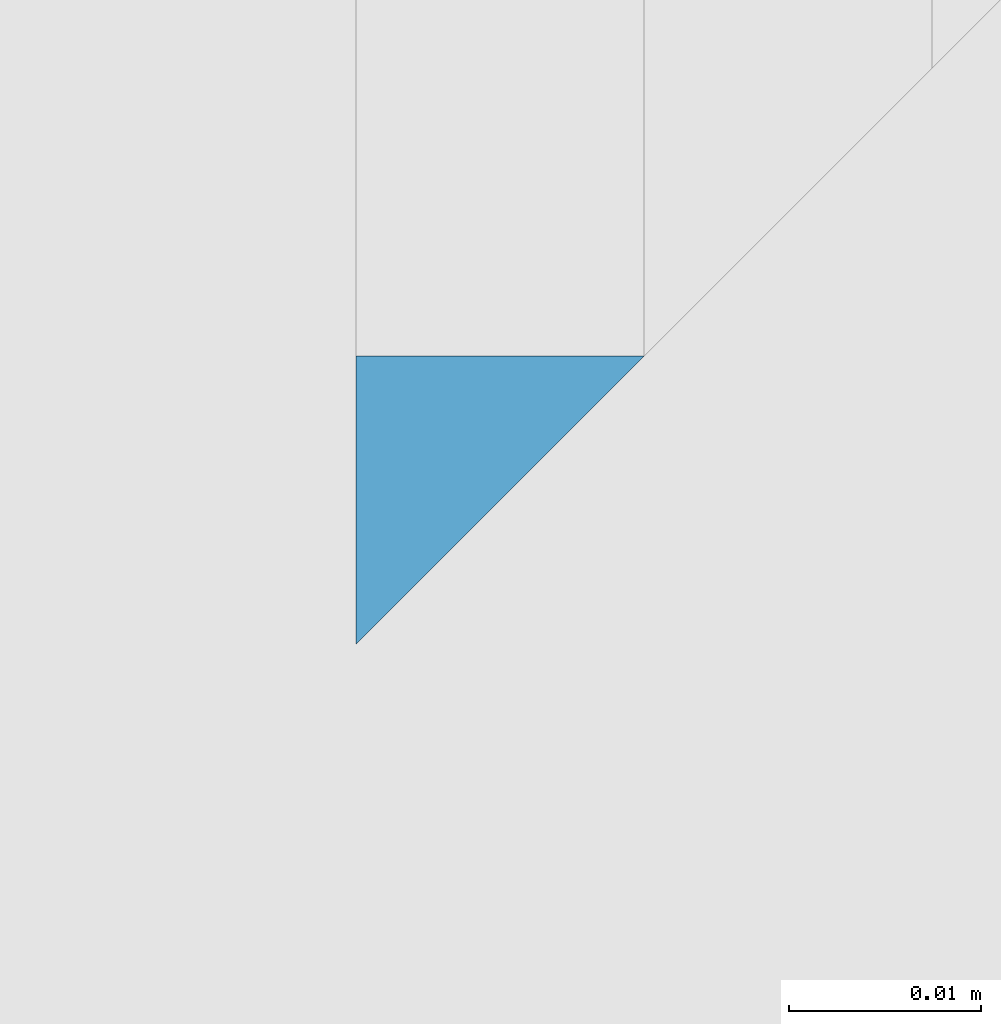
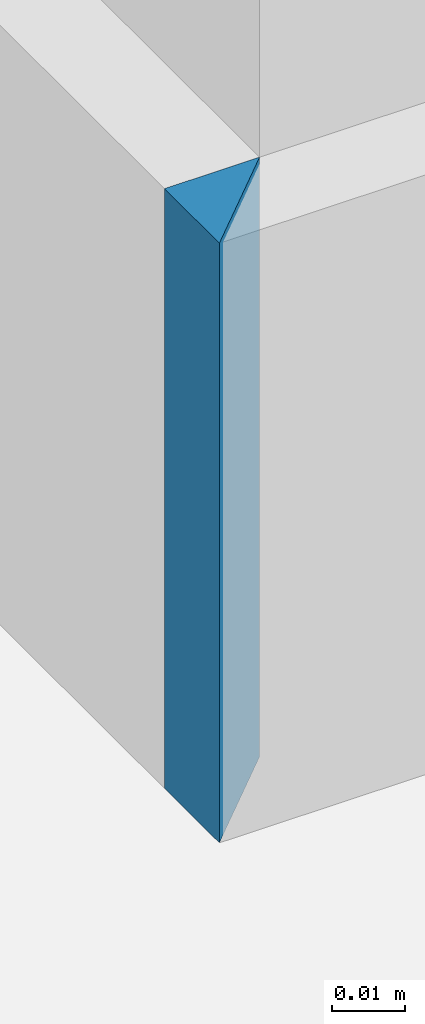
# One storey, part 29 of 85: 1 building element part, 1 element without a shape of its own.
"""IFC2X3 building model written with IfcOpenShell, lengths in metres."""

from ifc_helpers import new_model, entity, si_unit, converted_unit, derived_unit, money_unit, direction, frame, origin_with_axes, place, context, subcontext, project, spatial, polyline, outline, extrude, material, type_object, element, aggregate, save


model = new_model("IFC2X3")

# Units and contexts
model_context = context("Model", 3, precision=1e-05, world=origin_with_axes(), true_north=direction((0.0, 1.0)))
body_context = subcontext(model_context, "Body", "Model", "MODEL_VIEW", scale=1.0)
ifc_project = project(units=[si_unit("LENGTHUNIT", "METRE"), si_unit("AREAUNIT", "SQUARE_METRE"), si_unit("VOLUMEUNIT", "CUBIC_METRE"), si_unit("ABSORBEDDOSEUNIT", "GRAY"), si_unit("AMOUNTOFSUBSTANCEUNIT", "MOLE"), si_unit("DOSEEQUIVALENTUNIT", "SIEVERT"), si_unit("ELECTRICCAPACITANCEUNIT", "FARAD"), si_unit("ELECTRICCHARGEUNIT", "COULOMB"), si_unit("ELECTRICCONDUCTANCEUNIT", "SIEMENS"), si_unit("ELECTRICCURRENTUNIT", "AMPERE"), si_unit("ELECTRICRESISTANCEUNIT", "OHM"), si_unit("ELECTRICVOLTAGEUNIT", "VOLT"), si_unit("ENERGYUNIT", "JOULE"), si_unit("FORCEUNIT", "NEWTON"), si_unit("FREQUENCYUNIT", "HERTZ"), si_unit("ILLUMINANCEUNIT", "LUX"), si_unit("INDUCTANCEUNIT", "HENRY"), si_unit("LUMINOUSFLUXUNIT", "LUMEN"), si_unit("LUMINOUSINTENSITYUNIT", "CANDELA"), si_unit("MAGNETICFLUXDENSITYUNIT", "TESLA"), si_unit("MAGNETICFLUXUNIT", "WEBER"), si_unit("MASSUNIT", "GRAM"), converted_unit("PLANEANGLEUNIT", "degree", entity("IfcReal", 0.0174532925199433), si_unit("PLANEANGLEUNIT", "RADIAN"), dimensions=[0, 0, 0, 0, 0, 0, 0]), si_unit("POWERUNIT", "WATT"), si_unit("PRESSUREUNIT", "PASCAL"), si_unit("RADIOACTIVITYUNIT", "BECQUEREL"), si_unit("SOLIDANGLEUNIT", "STERADIAN"), si_unit("THERMODYNAMICTEMPERATUREUNIT", "KELVIN"), si_unit("TIMEUNIT", "SECOND"), derived_unit("ACCELERATIONUNIT", [(si_unit("LENGTHUNIT", "METRE"), 1), (si_unit("TIMEUNIT", "SECOND"), -2)]), derived_unit("ANGULARVELOCITYUNIT", [(converted_unit("PLANEANGLEUNIT", "degree", entity("IfcReal", 0.0174532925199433), si_unit("PLANEANGLEUNIT", "RADIAN"), dimensions=[0, 0, 0, 0, 0, 0, 0]), 1), (si_unit("TIMEUNIT", "SECOND"), -1)]), derived_unit("CURVATUREUNIT", [(converted_unit("PLANEANGLEUNIT", "degree", entity("IfcReal", 0.0174532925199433), si_unit("PLANEANGLEUNIT", "RADIAN"), dimensions=[0, 0, 0, 0, 0, 0, 0]), 1), (si_unit("LENGTHUNIT", "METRE"), -1)]), derived_unit("DYNAMICVISCOSITYUNIT", [(si_unit("PRESSUREUNIT", "PASCAL"), 1), (si_unit("TIMEUNIT", "SECOND"), 1)]), derived_unit("HEATFLUXDENSITYUNIT", [(si_unit("POWERUNIT", "WATT"), 1), (si_unit("LENGTHUNIT", "METRE"), -2)]), derived_unit("HEATINGVALUEUNIT", [(si_unit("ENERGYUNIT", "JOULE"), 1), (si_unit("MASSUNIT", "GRAM"), -1)]), derived_unit("INTEGERCOUNTRATEUNIT", [(si_unit("TIMEUNIT", "SECOND"), -1)]), derived_unit("IONCONCENTRATIONUNIT", [(si_unit("MASSUNIT", "GRAM"), 1), (si_unit("VOLUMEUNIT", "CUBIC_METRE"), -1)]), derived_unit("ISOTHERMALMOISTURECAPACITYUNIT", [(si_unit("VOLUMEUNIT", "CUBIC_METRE"), 1), (si_unit("MASSUNIT", "GRAM"), -1)]), derived_unit("KINEMATICVISCOSITYUNIT", [(si_unit("AREAUNIT", "SQUARE_METRE"), 1), (si_unit("TIMEUNIT", "SECOND"), -1)]), derived_unit("LINEARFORCEUNIT", [(si_unit("FORCEUNIT", "NEWTON"), 1), (si_unit("LENGTHUNIT", "METRE"), -1)]), derived_unit("LINEARMOMENTUNIT", [(si_unit("FORCEUNIT", "NEWTON"), 1), (si_unit("LENGTHUNIT", "METRE"), -1)]), derived_unit("LINEARSTIFFNESSUNIT", [(si_unit("FORCEUNIT", "NEWTON"), 1), (si_unit("LENGTHUNIT", "METRE"), -1)]), derived_unit("LINEARVELOCITYUNIT", [(si_unit("LENGTHUNIT", "METRE"), 1), (si_unit("TIMEUNIT", "SECOND"), -1)]), derived_unit("LUMINOUSINTENSITYDISTRIBUTIONUNIT", [(si_unit("LUMINOUSINTENSITYUNIT", "CANDELA"), 1), (si_unit("LUMINOUSFLUXUNIT", "LUMEN"), -1)]), derived_unit("MASSDENSITYUNIT", [(si_unit("MASSUNIT", "GRAM"), 1), (si_unit("VOLUMEUNIT", "CUBIC_METRE"), -1)]), derived_unit("MASSFLOWRATEUNIT", [(si_unit("MASSUNIT", "GRAM"), 1), (si_unit("TIMEUNIT", "SECOND"), -1)]), derived_unit("MASSPERLENGTHUNIT", [(si_unit("MASSUNIT", "GRAM"), 1), (si_unit("LENGTHUNIT", "METRE"), -1)]), derived_unit("MODULUSOFELASTICITYUNIT", [(si_unit("FORCEUNIT", "NEWTON"), 1), (si_unit("AREAUNIT", "SQUARE_METRE"), -1)]), derived_unit("MODULUSOFLINEARSUBGRADEREACTIONUNIT", [(si_unit("FORCEUNIT", "NEWTON"), 1), (si_unit("LENGTHUNIT", "METRE"), -2)]), derived_unit("MODULUSOFROTATIONALSUBGRADEREACTIONUNIT", [(si_unit("FORCEUNIT", "NEWTON"), 1), (si_unit("LENGTHUNIT", "METRE"), 1)]), derived_unit("MODULUSOFSUBGRADEREACTIONUNIT", [(si_unit("FORCEUNIT", "NEWTON"), 1), (si_unit("VOLUMEUNIT", "CUBIC_METRE"), -1)]), derived_unit("MOISTUREDIFFUSIVITYUNIT", [(si_unit("VOLUMEUNIT", "CUBIC_METRE"), 1), (si_unit("TIMEUNIT", "SECOND"), -1)]), derived_unit("MOLECULARWEIGHTUNIT", [(si_unit("MASSUNIT", "GRAM"), 1), (si_unit("AMOUNTOFSUBSTANCEUNIT", "MOLE"), -1)]), derived_unit("PLANARFORCEUNIT", [(si_unit("FORCEUNIT", "NEWTON"), 1), (si_unit("LENGTHUNIT", "METRE"), -2)]), derived_unit("ROTATIONALFREQUENCYUNIT", [(si_unit("TIMEUNIT", "SECOND"), -1)]), derived_unit("ROTATIONALMASSUNIT", [(si_unit("MASSUNIT", "GRAM"), 1), (si_unit("LENGTHUNIT", "METRE"), 2)]), derived_unit("ROTATIONALSTIFFNESSUNIT", [(si_unit("FORCEUNIT", "NEWTON"), 1), (si_unit("LENGTHUNIT", "METRE"), 1), (converted_unit("PLANEANGLEUNIT", "degree", entity("IfcReal", 0.0174532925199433), si_unit("PLANEANGLEUNIT", "RADIAN"), dimensions=[0, 0, 0, 0, 0, 0, 0]), -1)]), derived_unit("SECTIONAREAINTEGRALUNIT", [(si_unit("LENGTHUNIT", "METRE"), 5)]), derived_unit("SECTIONMODULUSUNIT", [(si_unit("LENGTHUNIT", "METRE"), 3)]), derived_unit("SHEARMODULUSUNIT", [(si_unit("FORCEUNIT", "NEWTON"), 1), (si_unit("AREAUNIT", "SQUARE_METRE"), -1)]), derived_unit("SOUNDPOWERUNIT", [(si_unit("ENERGYUNIT", "JOULE"), 1), (si_unit("TIMEUNIT", "SECOND"), -1)]), derived_unit("SPECIFICHEATCAPACITYUNIT", [(si_unit("FORCEUNIT", "NEWTON"), 1), (si_unit("MASSUNIT", "GRAM"), -1), (si_unit("THERMODYNAMICTEMPERATUREUNIT", "KELVIN"), -1)]), derived_unit("TEMPERATUREGRADIENTUNIT", [(si_unit("THERMODYNAMICTEMPERATUREUNIT", "KELVIN"), 1), (si_unit("LENGTHUNIT", "METRE"), -1)]), derived_unit("THERMALADMITTANCEUNIT", [(si_unit("POWERUNIT", "WATT"), 1), (si_unit("AREAUNIT", "SQUARE_METRE"), -1), (si_unit("THERMODYNAMICTEMPERATUREUNIT", "KELVIN"), -1)]), derived_unit("THERMALCONDUCTANCEUNIT", [(si_unit("POWERUNIT", "WATT"), 1), (si_unit("LENGTHUNIT", "METRE"), -1), (si_unit("THERMODYNAMICTEMPERATUREUNIT", "KELVIN"), -1)]), derived_unit("THERMALEXPANSIONCOEFFICIENTUNIT", [(si_unit("THERMODYNAMICTEMPERATUREUNIT", "KELVIN"), -1)]), derived_unit("THERMALRESISTANCEUNIT", [(si_unit("AREAUNIT", "SQUARE_METRE"), 1), (si_unit("POWERUNIT", "WATT"), -1)]), derived_unit("THERMALTRANSMITTANCEUNIT", [(si_unit("POWERUNIT", "WATT"), 1), (si_unit("AREAUNIT", "SQUARE_METRE"), -1), (si_unit("THERMODYNAMICTEMPERATUREUNIT", "KELVIN"), -1)]), derived_unit("TORQUEUNIT", [(si_unit("FORCEUNIT", "NEWTON"), 1), (si_unit("LENGTHUNIT", "METRE"), 1)]), derived_unit("VAPORPERMEABILITYUNIT", [(si_unit("MASSUNIT", "GRAM"), 1), (si_unit("TIMEUNIT", "SECOND"), -1)]), derived_unit("VOLUMETRICFLOWRATEUNIT", [(si_unit("VOLUMEUNIT", "CUBIC_METRE"), 1), (si_unit("TIMEUNIT", "SECOND"), -1)]), derived_unit("WARPINGCONSTANTUNIT", [(si_unit("LENGTHUNIT", "METRE"), 6)]), derived_unit("WARPINGMOMENTUNIT", [(si_unit("FORCEUNIT", "NEWTON"), 1), (si_unit("LENGTHUNIT", "METRE"), 2)]), money_unit("GBP")], contexts=[model_context])

# Site, building, storey
site_placement = place(None, origin_with_axes())
site = spatial("IfcSite", under=ifc_project, at=site_placement, Name="Site", CompositionType="ELEMENT")
building_placement = place(site_placement, origin_with_axes())
building = spatial("IfcBuilding", under=site, at=building_placement, Name="Building01", CompositionType="ELEMENT")
storey_placement = place(building_placement, frame((0.0, 0.0, 12.13), z_axis=(0.0, 0.0, 1.0), x_axis=(1.0, 0.0, 0.0)))
storey = spatial("IfcBuildingStorey", under=building, at=storey_placement, Name="3F", CompositionType="ELEMENT", Elevation=12.13)

# Wall, building element part
wall_type = type_object("IfcWallType", Name="SHE_A-Walls_Type01c_Partywall_225mm_twin_tall", PredefinedType="NOTDEFINED")
wall_placement = place(storey_placement, frame((12.288, 4.98, 0.0), z_axis=(0.0, 0.0, 1.0), x_axis=(0.0, -1.0, 0.0)))
wall = element("IfcWall", 1, at=wall_placement, inside=storey, type_object=wall_type, Name="1C", ObjectType="SHE_A-Walls_Type01c_Partywall_225mm_twin_tall")
ifc_material = material(Name="A_BSUK_Walls_Timber")
building_element_part_placement = place(wall_placement, origin_with_axes())
building_element_part = element("IfcBuildingElementPart", 2, at=building_element_part_placement, material=ifc_material, Name="2", context=body_context, shape_type="SweptSolid", body=[
    extrude(outline(polyline([(0.815572, -0.138), (0.815557, -0.138), (0.815557, -0.153), (0.830572, -0.153), (0.815572, -0.138)])), frame((0.0, 0.0, 0.015), z_axis=(0.0, 0.0, 1.0), x_axis=(1.0, 0.0, 0.0)), (0.0, 0.0, 1.0), 0.1),
])
aggregate(wall, [building_element_part])

save(model, "model.ifc")
